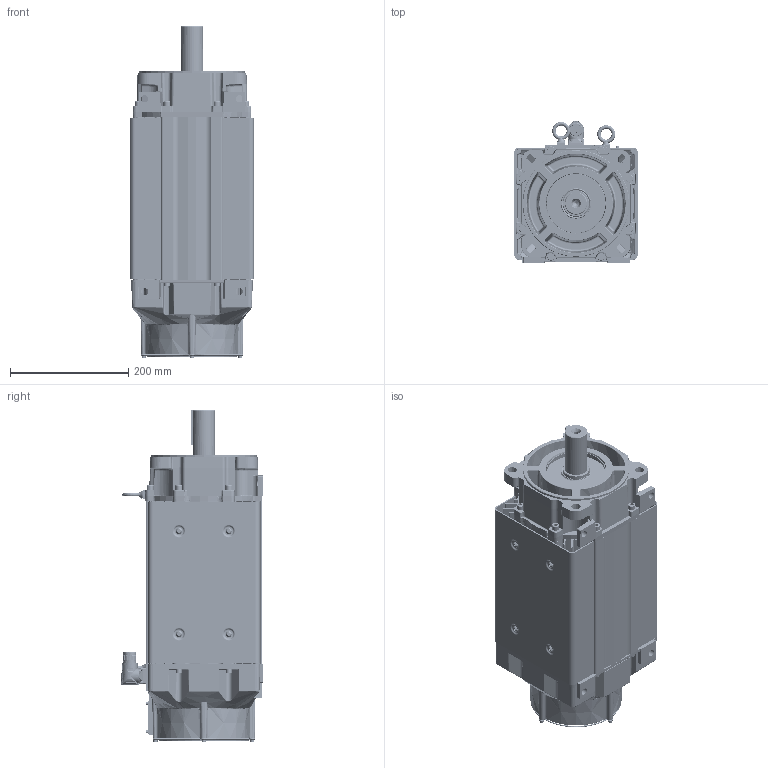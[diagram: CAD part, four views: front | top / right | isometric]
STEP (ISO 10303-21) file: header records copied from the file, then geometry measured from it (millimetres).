
FILE_DESCRIPTION((''),'2;1');
FILE_NAME('VPC-B21549-QJ12FX_ASM','2016-09-26T',('SRGaddam'),('Rockwell Automation'),'PRO/ENGINEER BY PARAMETRIC TECHNOLOGY CORPORATION, 2012480','PRO/ENGINEER BY PARAMETRIC TECHNOLOGY CORPORATION, 2012480','');
FILE_SCHEMA(('CONFIG_CONTROL_DESIGN'));
Products named in the file (42): 10001238886_AF0; 10001298482_AF22; 10001284445_ASM; CH31X150; 10001365220; 10000569218; 10001416311; 10001587021; 10001257630_AF285; 10001300098_AF257; 10001314840_ASM; 10001289764; 10002069468; 10001935397; 10001713570; 10001713572_ASM; 91290A150BR; 10001289776; CH4X050; 10001587458; 91290A115; 10001336508; 10001409703; 10001299929; 10001284567; 10001518963; 91290A148BR; 10001587431; 91290A139BR; 10000231113; 10001289808_ASM; 10001609981; 0002-5005; 10001586886; 10001369859; 0011-2066; 142413_923; PRT0001_923; 142413-1_923_ASM; 10000172464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
Assembly tree (80 placements, depth 4):
  VPC-B21549-QJ12FX_ASM
    10001284445_ASM
      10001238886_AF0
      10001298482_AF22
    CH31X150  x8
    10001365220
    10000569218
    10001416311  x2
    10001587021  x8
    10001314840_ASM
      10001257630_AF285
      10001300098_AF257
    10001289808_ASM
      10001289764
      10002069468
      10001713572_ASM
        10001935397
        10001713570
      91290A150BR  x4
      10001289776
      CH4X050  x2
      10001587458
      91290A115  x5
      10001336508
      10001409703
      10001299929
      10001284567
      10001518963
      91290A148BR  x8
      10001587431
      91290A139BR
      10000231113
    10001609981
    0002-5005  x2
    10001586886  x6
    10001369859
    0011-2066
    M923_ASM
      142413-1_923_ASM
        142413_923
        PRT0001_923
      10000172464  x4
Bounding box: 210.91 x 240 x 560.61 mm (x, y, z)
Volume: 5470615.6 mm3; surface area: 1714156.1 mm2
Topology: 83 solids, 83 shells, 6587 faces, 15780 edges, 9629 vertices
Faces by surface type: plane 1949, cylinder 1812, bspline 1243, cone 807, torus 605, sphere 140, revolution 30, extrusion 1
Entity records: 231897 total; most frequent: CARTESIAN_POINT 109258, ORIENTED_EDGE 26628, DIRECTION 23780, EDGE_CURVE 13314, AXIS2_PLACEMENT_3D 9367, VERTEX_POINT 8214, EDGE_LOOP 5990, FACE_OUTER_BOUND 5496
